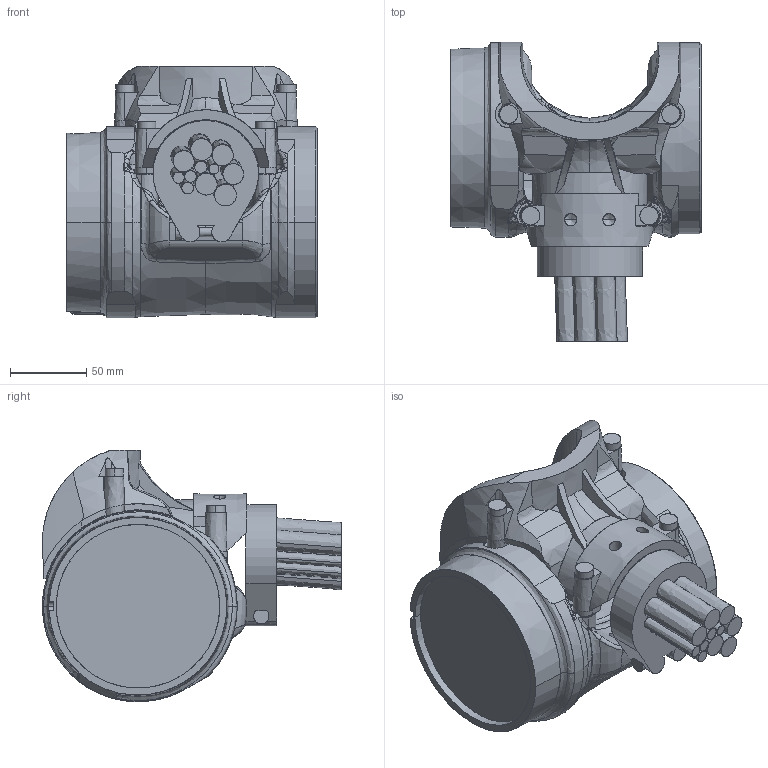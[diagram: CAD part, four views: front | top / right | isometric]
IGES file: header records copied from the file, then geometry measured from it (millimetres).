
Start section: SolidWorks IGES file using analytic representation for surfaces
Global section: file name: C:\Users\SEALDUN\OneDrive - ABB\Documents\R&D Robotics\Work Items\WI 632927\IGES\IRB5710-LID-SW_70kg-270_OC_02_IGES_J\IRB5710-LID_70kg-270_OmniCore_rev00_LINK06_CABLE.igs; native system: SolidWorks 2024; preprocessor: SolidWorks 2024; author: SEALDUN; date: 250707.155314; units: millimetre
Bounding box: 164.1 x 195.66 x 164.5 mm (x, y, z)
Surface area: 192169 mm2 (no closed solid volume)
Topology: 0 solids, 0 shells, 713 faces, 10627 edges, 10595 vertices
Faces by surface type: bspline 466, revolution 247
